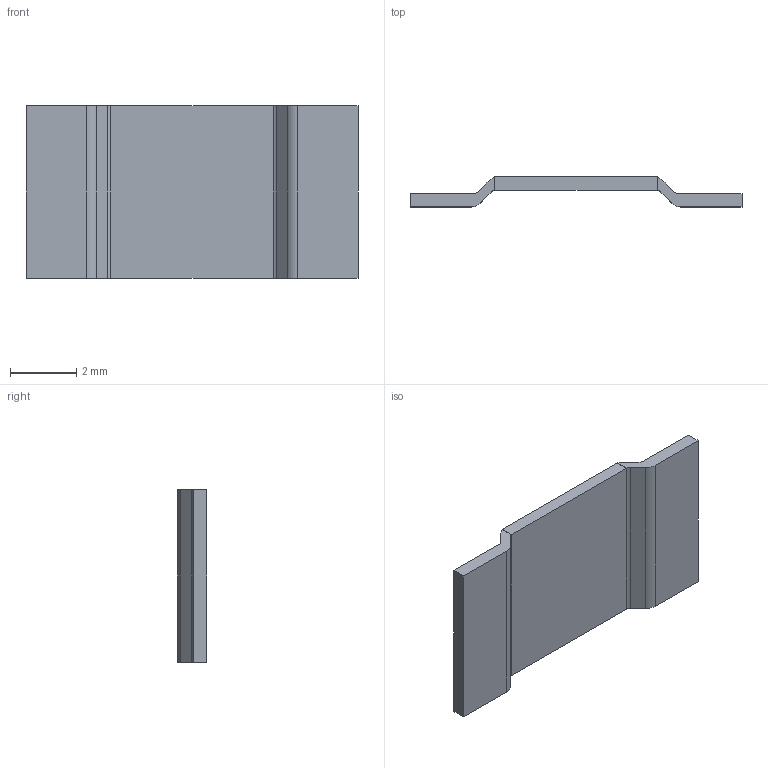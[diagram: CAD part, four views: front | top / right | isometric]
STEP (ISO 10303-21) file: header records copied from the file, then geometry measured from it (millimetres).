
FILE_DESCRIPTION (( 'STEP AP203' ), '1' );
FILE_NAME ('PEWK 3920-3m¦¸.STEP', '2023-11-01T05:35:26', ( 'meks@163.com' ), ( '' ), 'SwSTEP 2.0', 'SolidWorks 2020', '' );
FILE_SCHEMA (( 'CONFIG_CONTROL_DESIGN' ));
Length unit declared in the file: millimetre
Products named in the file (1): PEWK 3920-3m次
Bounding box: 10 x 0.9 x 5.2 mm (x, y, z)
Volume: 20.7 mm3; surface area: 128.5 mm2
Topology: 3 solids, 3 shells, 150 faces, 402 edges, 268 vertices
Faces by surface type: plane 106, bspline 28, cylinder 16
Entity records: 6411 total; most frequent: CARTESIAN_POINT 2737, ORIENTED_EDGE 804, DIRECTION 624, EDGE_CURVE 402, LINE 314, VECTOR 314, VERTEX_POINT 268, EDGE_LOOP 160
